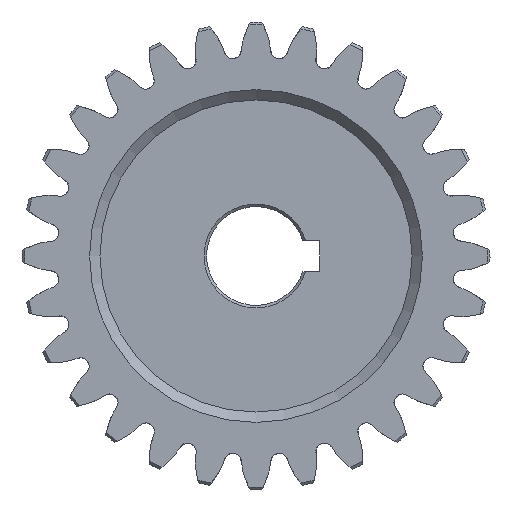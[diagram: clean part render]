
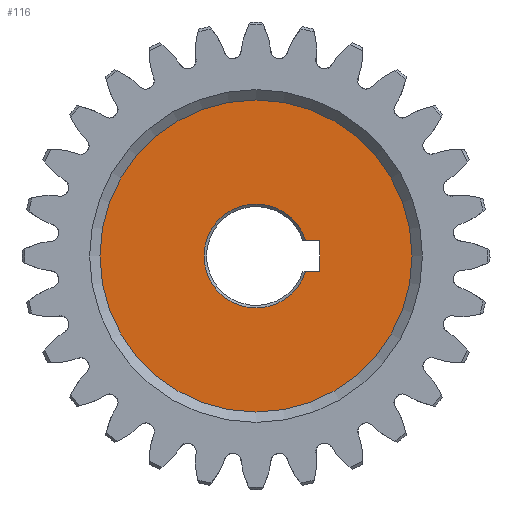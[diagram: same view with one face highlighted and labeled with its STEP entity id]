
A CAD part, left-side view. The second image highlights one B-rep face of the part: STEP entity #116.
In plain terms, the highlighted planar face has unit normal (-1, 0, 0).
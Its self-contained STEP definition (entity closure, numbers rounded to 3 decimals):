
#116=ADVANCED_FACE('',(#2264,#2266),#2268,.T.);
#2264=FACE_BOUND('',#2265,.T.);
#2265=EDGE_LOOP('',(#3994));
#2266=FACE_BOUND('',#2267,.T.);
#2267=EDGE_LOOP('',(#3995,#3996,#3997,#3998,#3999,#4000));
#2268=PLANE('',#2269);
#2269=AXIS2_PLACEMENT_3D('',#2270,#2271,#2272);
#2270=CARTESIAN_POINT('',(8.,0.,0.));
#2271=DIRECTION('',(-1.,-0.,-0.));
#2272=DIRECTION('',(0.,0.,-1.));
#3994=ORIENTED_EDGE('',*,*,#6288,.T.);
#3995=ORIENTED_EDGE('',*,*,#6289,.F.);
#3996=ORIENTED_EDGE('',*,*,#6100,.F.);
#3997=ORIENTED_EDGE('',*,*,#6103,.F.);
#3998=ORIENTED_EDGE('',*,*,#6106,.F.);
#3999=ORIENTED_EDGE('',*,*,#6109,.F.);
#4000=ORIENTED_EDGE('',*,*,#6115,.F.);
#6100=EDGE_CURVE('',#6804,#6806,#6807,.F.);
#6103=EDGE_CURVE('',#6811,#6804,#6812,.F.);
#6106=EDGE_CURVE('',#6816,#6811,#6817,.F.);
#6109=EDGE_CURVE('',#6821,#6816,#6822,.F.);
#6115=EDGE_CURVE('',#6831,#6821,#6833,.F.);
#6288=EDGE_CURVE('',#7175,#7175,#7176,.T.);
#6289=EDGE_CURVE('',#6806,#6831,#7177,.F.);
#6804=VERTEX_POINT('',#7983);
#6806=VERTEX_POINT('',#7987);
#6807=LINE('',#7988,#7989);
#6811=VERTEX_POINT('',#8001);
#6812=CIRCLE('',#8002,0.25);
#6816=VERTEX_POINT('',#8014);
#6817=LINE('',#8015,#8016);
#6821=VERTEX_POINT('',#8025);
#6822=CIRCLE('',#8026,0.25);
#6831=VERTEX_POINT('',#8050);
#6833=LINE('',#8057,#8058);
#7175=VERTEX_POINT('',#8972);
#7176=CIRCLE('',#8973,30.);
#7177=CIRCLE('',#8977,10.);
#7983=CARTESIAN_POINT('',(8.,-12.05,3.));
#7987=CARTESIAN_POINT('',(8.,-9.539,3.));
#7988=CARTESIAN_POINT('',(8.,-9.539,3.));
#7989=VECTOR('',#7990,1.);
#7990=DIRECTION('',(0.,-1.,0.));
#8001=CARTESIAN_POINT('',(8.,-12.3,2.75));
#8002=AXIS2_PLACEMENT_3D('',#8003,#8004,#8005);
#8003=CARTESIAN_POINT('',(8.,-12.05,2.75));
#8004=DIRECTION('',(1.,0.,0.));
#8005=DIRECTION('',(0.,0.,1.));
#8014=CARTESIAN_POINT('',(8.,-12.3,-2.75));
#8015=CARTESIAN_POINT('',(8.,-12.3,2.75));
#8016=VECTOR('',#8017,1.);
#8017=DIRECTION('',(0.,0.,-1.));
#8025=CARTESIAN_POINT('',(8.,-12.05,-3.));
#8026=AXIS2_PLACEMENT_3D('',#8027,#8028,#8029);
#8027=CARTESIAN_POINT('',(8.,-12.05,-2.75));
#8028=DIRECTION('',(1.,0.,0.));
#8029=DIRECTION('',(0.,-1.,0.));
#8050=CARTESIAN_POINT('',(8.,-9.539,-3.));
#8057=CARTESIAN_POINT('',(8.,-12.05,-3.));
#8058=VECTOR('',#8059,1.);
#8059=DIRECTION('',(0.,1.,0.));
#8972=CARTESIAN_POINT('',(8.,0.,-30.));
#8973=AXIS2_PLACEMENT_3D('',#8974,#8975,#8976);
#8974=CARTESIAN_POINT('',(8.,0.,0.));
#8975=DIRECTION('',(-1.,-0.,-0.));
#8976=DIRECTION('',(0.,0.,-1.));
#8977=AXIS2_PLACEMENT_3D('',#8978,#8979,#8980);
#8978=CARTESIAN_POINT('',(8.,0.,0.));
#8979=DIRECTION('',(1.,0.,0.));
#8980=DIRECTION('',(0.,-0.954,-0.3));
